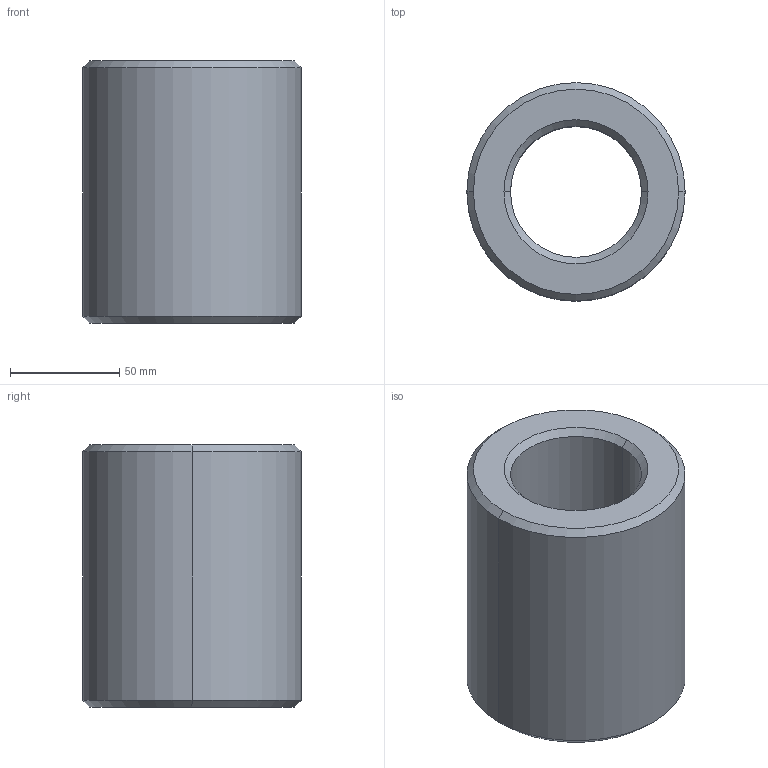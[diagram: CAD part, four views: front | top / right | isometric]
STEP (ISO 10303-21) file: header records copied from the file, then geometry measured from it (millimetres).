
FILE_DESCRIPTION (( 'STEP AP203' ), '1' );
FILE_NAME ('L1330.L60-09.step', '2024-10-24T09:24:18', ( '' ), ( '' ), 'SwSTEP 2.0', 'SolidWorks 2019', '' );
FILE_SCHEMA (( 'CONFIG_CONTROL_DESIGN' ));
Length unit declared in the file: millimetre
Products named in the file (1): L1330.L60-09
Bounding box: 100 x 100 x 120 mm (x, y, z)
Volume: 598661.9 mm3; surface area: 68605 mm2
Topology: 1 solids, 1 shells, 14 faces, 28 edges, 16 vertices
Faces by surface type: cone 8, cylinder 4, plane 2
Entity records: 445 total; most frequent: DIRECTION 74, CARTESIAN_POINT 59, ORIENTED_EDGE 56, AXIS2_PLACEMENT_3D 31, EDGE_CURVE 28, CIRCLE 16, VERTEX_POINT 16, EDGE_LOOP 16
